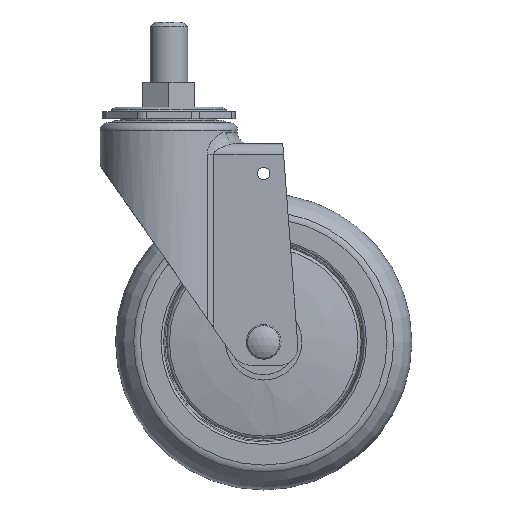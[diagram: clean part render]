
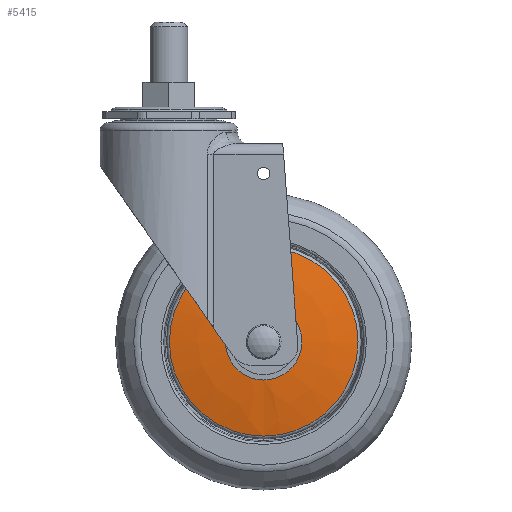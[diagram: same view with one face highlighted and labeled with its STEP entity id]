
A CAD part, front view. The second image highlights one B-rep face of the part: STEP entity #5415.
In plain terms, the highlighted free-form (B-spline) face has degree [2, 2] with [3, 9] control points.
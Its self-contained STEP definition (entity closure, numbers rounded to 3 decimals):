
#678=(
BOUNDED_CURVE()
B_SPLINE_CURVE(2,(#8625,#8626,#8627),.UNSPECIFIED.,.F.,.F.)
B_SPLINE_CURVE_WITH_KNOTS((3,3),(1.358,1.496),
 .UNSPECIFIED.)
CURVE()
GEOMETRIC_REPRESENTATION_ITEM()
RATIONAL_B_SPLINE_CURVE((1.,0.998,1.))
REPRESENTATION_ITEM('')
);
#718=(
BOUNDED_SURFACE()
B_SPLINE_SURFACE(2,2,((#8594,#8595,#8596,#8597,#8598,#8599,#8600,#8601,
#8602),(#8603,#8604,#8605,#8606,#8607,#8608,#8609,#8610,#8611),(#8612,#8613,
#8614,#8615,#8616,#8617,#8618,#8619,#8620)),.UNSPECIFIED.,.F.,.T.,.F.)
B_SPLINE_SURFACE_WITH_KNOTS((3,3),(3,2,2,2,3),(-1.496,-1.358),
(-3.142,-1.571,0.,1.571,3.142),
 .UNSPECIFIED.)
GEOMETRIC_REPRESENTATION_ITEM()
RATIONAL_B_SPLINE_SURFACE(((1.,0.707,1.,0.707,1.,
0.707,1.,0.707,1.),(0.998,0.705,
0.998,0.705,0.998,0.705,
0.998,0.705,0.998),(1.,0.707,
1.,0.707,1.,0.707,1.,0.707,1.)))
REPRESENTATION_ITEM('')
SURFACE()
);
#1163=FACE_OUTER_BOUND('',#1594,.T.);
#1594=EDGE_LOOP('',(#3829,#3830,#3831,#3832,#3833,#3834));
#2113=CIRCLE('',#5858,16.136);
#2114=CIRCLE('',#5859,16.136);
#2115=CIRCLE('',#5860,39.788);
#2116=CIRCLE('',#5861,39.788);
#2465=VERTEX_POINT('',#8587);
#2466=VERTEX_POINT('',#8588);
#2467=VERTEX_POINT('',#8621);
#2468=VERTEX_POINT('',#8622);
#3003=EDGE_CURVE('',#2465,#2466,#2113,.T.);
#3004=EDGE_CURVE('',#2466,#2465,#2114,.T.);
#3006=EDGE_CURVE('',#2467,#2468,#2115,.T.);
#3007=EDGE_CURVE('',#2468,#2467,#2116,.T.);
#3008=EDGE_CURVE('',#2468,#2466,#678,.T.);
#3829=ORIENTED_EDGE('',*,*,#3006,.F.);
#3830=ORIENTED_EDGE('',*,*,#3007,.F.);
#3831=ORIENTED_EDGE('',*,*,#3008,.T.);
#3832=ORIENTED_EDGE('',*,*,#3004,.T.);
#3833=ORIENTED_EDGE('',*,*,#3003,.T.);
#3834=ORIENTED_EDGE('',*,*,#3008,.F.);
#5415=ADVANCED_FACE('',(#1163),#718,.F.);
#5858=AXIS2_PLACEMENT_3D('',#8589,#6699,#6700);
#5859=AXIS2_PLACEMENT_3D('',#8590,#6701,#6702);
#5860=AXIS2_PLACEMENT_3D('',#8623,#6703,#6704);
#5861=AXIS2_PLACEMENT_3D('',#8624,#6705,#6706);
#6699=DIRECTION('center_axis',(0.,1.,0.));
#6700=DIRECTION('ref_axis',(1.,0.,0.));
#6701=DIRECTION('center_axis',(0.,1.,0.));
#6702=DIRECTION('ref_axis',(1.,0.,0.));
#6703=DIRECTION('center_axis',(0.,1.,0.));
#6704=DIRECTION('ref_axis',(1.,0.,0.));
#6705=DIRECTION('center_axis',(0.,1.,0.));
#6706=DIRECTION('ref_axis',(1.,0.,0.));
#8587=CARTESIAN_POINT('',(19.37,43.008,-78.114));
#8588=CARTESIAN_POINT('',(19.37,43.008,-110.386));
#8589=CARTESIAN_POINT('Origin',(19.37,43.008,-94.25));
#8590=CARTESIAN_POINT('Origin',(19.37,43.008,-94.25));
#8594=CARTESIAN_POINT('Ctrl Pts',(19.37,43.008,-110.386));
#8595=CARTESIAN_POINT('Ctrl Pts',(3.234,43.008,-110.386));
#8596=CARTESIAN_POINT('Ctrl Pts',(3.234,43.008,-94.25));
#8597=CARTESIAN_POINT('Ctrl Pts',(3.234,43.008,-78.114));
#8598=CARTESIAN_POINT('Ctrl Pts',(19.37,43.008,-78.114));
#8599=CARTESIAN_POINT('Ctrl Pts',(35.505,43.008,-78.114));
#8600=CARTESIAN_POINT('Ctrl Pts',(35.505,43.008,-94.25));
#8601=CARTESIAN_POINT('Ctrl Pts',(35.505,43.008,-110.386));
#8602=CARTESIAN_POINT('Ctrl Pts',(19.37,43.008,-110.386));
#8603=CARTESIAN_POINT('Ctrl Pts',(19.37,43.898,-122.33));
#8604=CARTESIAN_POINT('Ctrl Pts',(-8.71,43.898,-122.33));
#8605=CARTESIAN_POINT('Ctrl Pts',(-8.71,43.898,-94.25));
#8606=CARTESIAN_POINT('Ctrl Pts',(-8.71,43.898,-66.17));
#8607=CARTESIAN_POINT('Ctrl Pts',(19.37,43.898,-66.17));
#8608=CARTESIAN_POINT('Ctrl Pts',(47.45,43.898,-66.17));
#8609=CARTESIAN_POINT('Ctrl Pts',(47.45,43.898,-94.25));
#8610=CARTESIAN_POINT('Ctrl Pts',(47.45,43.898,-122.33));
#8611=CARTESIAN_POINT('Ctrl Pts',(19.37,43.898,-122.33));
#8612=CARTESIAN_POINT('Ctrl Pts',(19.37,46.424,-134.038));
#8613=CARTESIAN_POINT('Ctrl Pts',(-20.418,46.424,-134.038));
#8614=CARTESIAN_POINT('Ctrl Pts',(-20.418,46.424,-94.25));
#8615=CARTESIAN_POINT('Ctrl Pts',(-20.418,46.424,-54.462));
#8616=CARTESIAN_POINT('Ctrl Pts',(19.37,46.424,-54.462));
#8617=CARTESIAN_POINT('Ctrl Pts',(59.158,46.424,-54.462));
#8618=CARTESIAN_POINT('Ctrl Pts',(59.158,46.424,-94.25));
#8619=CARTESIAN_POINT('Ctrl Pts',(59.158,46.424,-134.038));
#8620=CARTESIAN_POINT('Ctrl Pts',(19.37,46.424,-134.038));
#8621=CARTESIAN_POINT('',(19.37,46.424,-54.462));
#8622=CARTESIAN_POINT('',(19.37,46.424,-134.038));
#8623=CARTESIAN_POINT('Origin',(19.37,46.424,-94.25));
#8624=CARTESIAN_POINT('Origin',(19.37,46.424,-94.25));
#8625=CARTESIAN_POINT('Ctrl Pts',(19.37,46.424,-134.038));
#8626=CARTESIAN_POINT('Ctrl Pts',(19.37,43.898,-122.33));
#8627=CARTESIAN_POINT('Ctrl Pts',(19.37,43.008,-110.386));
